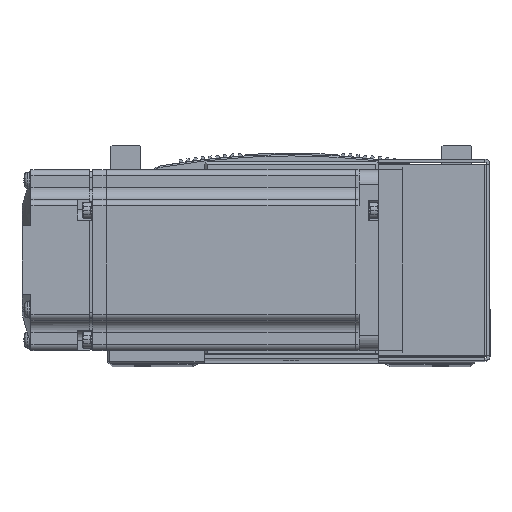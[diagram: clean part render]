
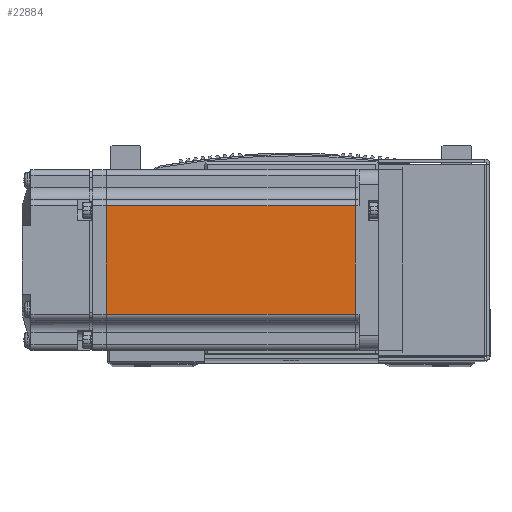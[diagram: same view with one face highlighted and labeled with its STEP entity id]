
A CAD part, top view. The second image highlights one B-rep face of the part: STEP entity #22884.
In plain terms, the highlighted planar face has unit normal (0, 0, 1) as drawn and (0, 1, 0) by its records, which use the part's own axes.
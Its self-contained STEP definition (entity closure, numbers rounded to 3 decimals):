
#3407 = AXIS2_PLACEMENT_3D ( 'NONE', #62522, #62469, #62516 ) ;
#10175 = CARTESIAN_POINT ( 'NONE',  ( -90.45, 30., 18. ) ) ;
#10232 = CARTESIAN_POINT ( 'NONE',  ( -7.75, 30., 18. ) ) ;
#12628 = CARTESIAN_POINT ( 'NONE',  ( -90.45, 30., -18. ) ) ;
#12639 = CARTESIAN_POINT ( 'NONE',  ( -7.75, 30., -18. ) ) ;
#17261 = VECTOR ( 'NONE', #38934, 1000. ) ;
#17274 = LINE ( 'NONE', #39025, #17418 ) ;
#17317 = LINE ( 'NONE', #38964, #17336 ) ;
#17336 = VECTOR ( 'NONE', #38959, 1000. ) ;
#17384 = VECTOR ( 'NONE', #38997, 1000. ) ;
#17408 = LINE ( 'NONE', #38988, #17384 ) ;
#17418 = VECTOR ( 'NONE', #39008, 1000. ) ;
#17424 = LINE ( 'NONE', #38929, #17261 ) ;
#22884 = ADVANCED_FACE ( 'NONE', ( #37502 ), #62545, .T. ) ;
#30493 = EDGE_LOOP ( 'NONE', ( #76939, #77058, #77065, #76380 ) ) ;
#37502 = FACE_OUTER_BOUND ( 'NONE', #30493, .T. ) ;
#38929 = CARTESIAN_POINT ( 'NONE',  ( -7.75, 30., 0. ) ) ;
#38934 = DIRECTION ( 'NONE',  ( 0., 0., 1. ) ) ;
#38959 = DIRECTION ( 'NONE',  ( 0., 0., 1. ) ) ;
#38964 = CARTESIAN_POINT ( 'NONE',  ( -90.45, 30., 0. ) ) ;
#38988 = CARTESIAN_POINT ( 'NONE',  ( -6.5, 30., 18. ) ) ;
#38997 = DIRECTION ( 'NONE',  ( 1., 0., 0. ) ) ;
#39008 = DIRECTION ( 'NONE',  ( -1., 0., 0. ) ) ;
#39025 = CARTESIAN_POINT ( 'NONE',  ( -6.5, 30., -18. ) ) ;
#57428 = EDGE_CURVE ( 'NONE', #65002, #66239, #17424, .T. ) ;
#57435 = EDGE_CURVE ( 'NONE', #65377, #66141, #17317, .T. ) ;
#57445 = EDGE_CURVE ( 'NONE', #66141, #66239, #17408, .T. ) ;
#57453 = EDGE_CURVE ( 'NONE', #65002, #65377, #17274, .T. ) ;
#62469 = DIRECTION ( 'NONE',  ( 0., 1., 0. ) ) ;
#62516 = DIRECTION ( 'NONE',  ( 0., 0., 1. ) ) ;
#62522 = CARTESIAN_POINT ( 'NONE',  ( -6.5, 30., 25. ) ) ;
#62545 = PLANE ( 'NONE',  #3407 ) ;
#65002 = VERTEX_POINT ( 'NONE', #12639 ) ;
#65377 = VERTEX_POINT ( 'NONE', #12628 ) ;
#66141 = VERTEX_POINT ( 'NONE', #10175 ) ;
#66239 = VERTEX_POINT ( 'NONE', #10232 ) ;
#76380 = ORIENTED_EDGE ( 'NONE', *, *, #57445, .T. ) ;
#76939 = ORIENTED_EDGE ( 'NONE', *, *, #57428, .F. ) ;
#77058 = ORIENTED_EDGE ( 'NONE', *, *, #57453, .T. ) ;
#77065 = ORIENTED_EDGE ( 'NONE', *, *, #57435, .T. ) ;
